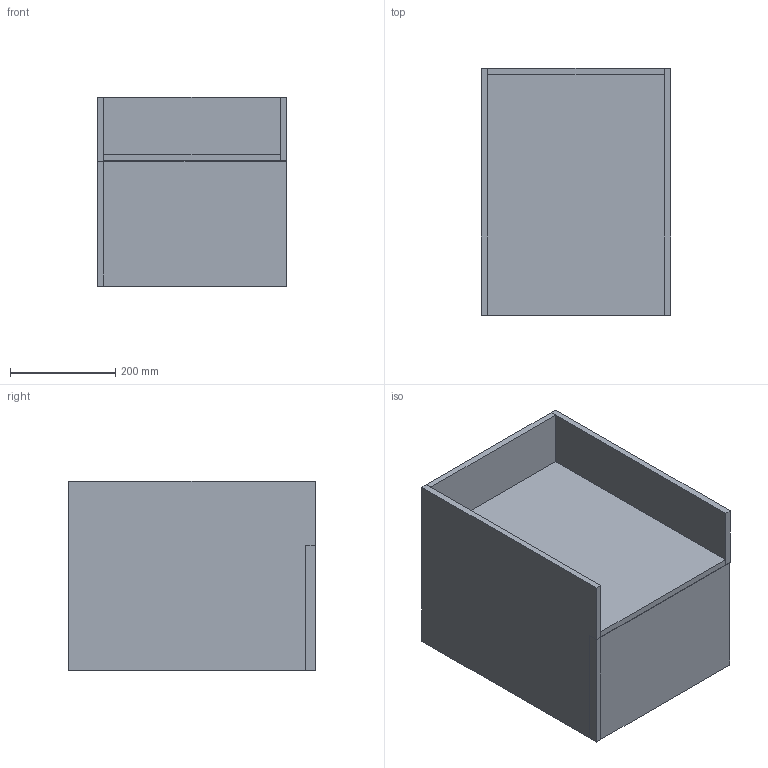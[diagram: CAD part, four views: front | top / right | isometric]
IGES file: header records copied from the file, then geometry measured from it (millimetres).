
Start section: Data from Parasolid IGES Translator 19.0.9, Copyright(c) 2006 Siemens PL M Software. All Rights Reserved.
Global section: file name: noorth-SI-H 36 D 47 W 37,2_8894.igs; native system: By Siemens PLM Incorporated; preprocessor: XPlus GENERIC/IGES 19.0.9; author: Noname; organization: Noname; date: 20200601.094258; units: metre
Bounding box: 360.01 x 470 x 360 mm (x, y, z)
Volume: 13341942 mm3; surface area: 2120959.6 mm2
Topology: 9 solids, 9 shells, 54 faces, 108 edges, 72 vertices
Faces by surface type: plane 54
